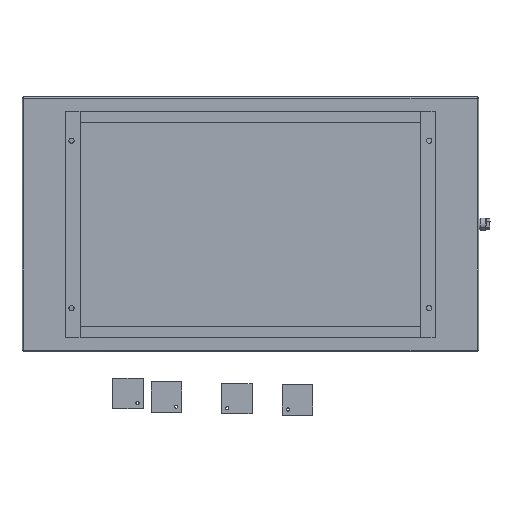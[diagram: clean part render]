
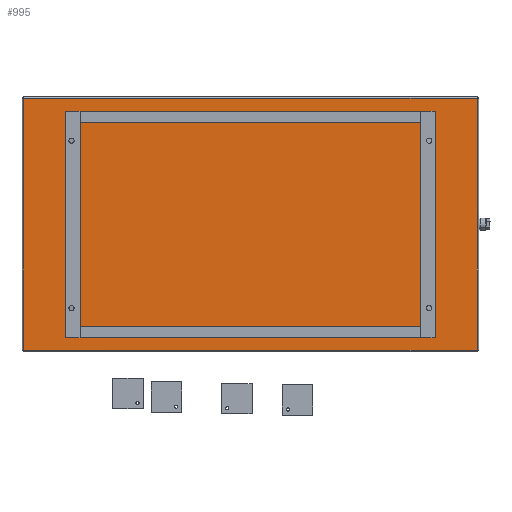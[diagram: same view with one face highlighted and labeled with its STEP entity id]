
A CAD part, front view. The second image highlights one B-rep face of the part: STEP entity #995.
In plain terms, the highlighted planar face has unit normal (0, -1, 0).
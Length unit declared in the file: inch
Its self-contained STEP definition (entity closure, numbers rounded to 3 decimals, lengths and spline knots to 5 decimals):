
#82 = EDGE_CURVE ( 'NONE', #1164, #2737, #3493, .T. ) ;
#341 = EDGE_CURVE ( 'NONE', #1115, #1164, #1977, .T. ) ;
#364 = EDGE_CURVE ( 'NONE', #2737, #1041, #499, .T. ) ;
#447 = VECTOR ( 'NONE', #626, 39.37008 ) ;
#463 = ORIENTED_EDGE ( 'NONE', *, *, #1462, .T. ) ;
#499 = LINE ( 'NONE', #2864, #3794 ) ;
#626 = DIRECTION ( 'NONE',  ( -1., 0., 0. ) ) ;
#949 = VECTOR ( 'NONE', #2831, 39.37008 ) ;
#995 = ADVANCED_FACE ( 'NONE', ( #1282 ), #3106, .T. ) ;
#1041 = VERTEX_POINT ( 'NONE', #1141 ) ;
#1075 = ORIENTED_EDGE ( 'NONE', *, *, #82, .T. ) ;
#1111 = DIRECTION ( 'NONE',  ( 0., 0., -1. ) ) ;
#1115 = VERTEX_POINT ( 'NONE', #1332 ) ;
#1141 = CARTESIAN_POINT ( 'NONE',  ( 0.197, -0.1345, -33.303 ) ) ;
#1164 = VERTEX_POINT ( 'NONE', #2171 ) ;
#1282 = FACE_OUTER_BOUND ( 'NONE', #2377, .T. ) ;
#1332 = CARTESIAN_POINT ( 'NONE',  ( 59.803, -0.1345, -33.303 ) ) ;
#1462 = EDGE_CURVE ( 'NONE', #1041, #1115, #2204, .T. ) ;
#1647 = CARTESIAN_POINT ( 'NONE',  ( 0.13457, -0.1345, -33.303 ) ) ;
#1731 = ORIENTED_EDGE ( 'NONE', *, *, #364, .T. ) ;
#1800 = ORIENTED_EDGE ( 'NONE', *, *, #341, .T. ) ;
#1977 = LINE ( 'NONE', #3177, #3182 ) ;
#2011 = DIRECTION ( 'NONE',  ( 0., -1., 0. ) ) ;
#2047 = DIRECTION ( 'NONE',  ( 0., 0., 1. ) ) ;
#2088 = CARTESIAN_POINT ( 'NONE',  ( 0.197, -0.1345, -0.197 ) ) ;
#2171 = CARTESIAN_POINT ( 'NONE',  ( 59.803, -0.1345, -0.197 ) ) ;
#2204 = LINE ( 'NONE', #1647, #949 ) ;
#2292 = DIRECTION ( 'NONE',  ( 0., 0., -1. ) ) ;
#2377 = EDGE_LOOP ( 'NONE', ( #463, #1800, #1075, #1731 ) ) ;
#2449 = CARTESIAN_POINT ( 'NONE',  ( 0., -0.1345, 0. ) ) ;
#2737 = VERTEX_POINT ( 'NONE', #2088 ) ;
#2831 = DIRECTION ( 'NONE',  ( 1., 0., 0. ) ) ;
#2864 = CARTESIAN_POINT ( 'NONE',  ( 0.197, -0.1345, -0.13457 ) ) ;
#3106 = PLANE ( 'NONE',  #3126 ) ;
#3126 = AXIS2_PLACEMENT_3D ( 'NONE', #2449, #2011, #2292 ) ;
#3177 = CARTESIAN_POINT ( 'NONE',  ( 59.803, -0.1345, -33.36543 ) ) ;
#3182 = VECTOR ( 'NONE', #2047, 39.37008 ) ;
#3493 = LINE ( 'NONE', #3513, #447 ) ;
#3513 = CARTESIAN_POINT ( 'NONE',  ( 59.86543, -0.1345, -0.197 ) ) ;
#3794 = VECTOR ( 'NONE', #1111, 39.37008 ) ;
